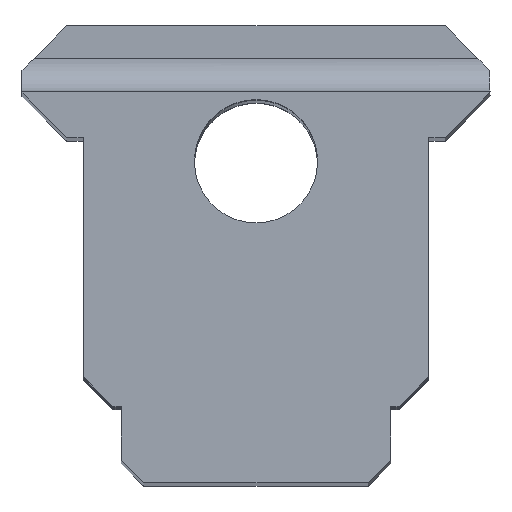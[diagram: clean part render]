
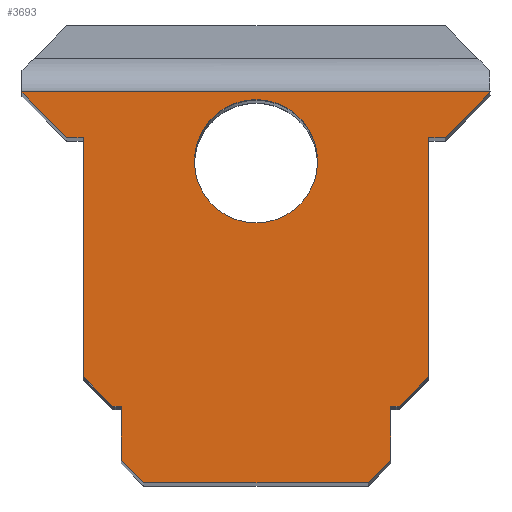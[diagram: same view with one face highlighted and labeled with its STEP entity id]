
A CAD part, top view. The second image highlights one B-rep face of the part: STEP entity #3693.
In plain terms, the highlighted planar face has unit normal (0, 0, 1).
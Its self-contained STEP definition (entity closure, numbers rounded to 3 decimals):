
#94=CIRCLE('',#3919,2.794);
#164=VECTOR('',#4071,1.);
#167=VECTOR('',#4075,1.);
#169=VECTOR('',#4078,1.);
#192=VECTOR('',#4102,1.);
#207=VECTOR('',#4122,1.);
#354=VECTOR('',#4312,1.);
#355=VECTOR('',#4313,1.);
#387=VECTOR('',#4358,1.);
#391=VECTOR('',#4363,1.);
#454=VECTOR('',#4588,1.);
#460=VECTOR('',#4596,1.);
#470=VECTOR('',#4608,1.);
#501=VECTOR('',#4651,1.);
#502=VECTOR('',#4653,1.);
#504=VECTOR('',#4656,1.);
#505=VECTOR('',#4657,1.);
#506=VECTOR('',#4658,1.);
#507=VECTOR('',#4659,1.);
#579=LINE('',#4865,#164);
#582=LINE('',#4871,#167);
#584=LINE('',#4875,#169);
#607=LINE('',#4927,#192);
#622=LINE('',#4958,#207);
#769=LINE('',#5257,#354);
#770=LINE('',#5259,#355);
#802=LINE('',#5323,#387);
#806=LINE('',#5332,#391);
#869=LINE('',#5584,#454);
#875=LINE('',#5595,#460);
#885=LINE('',#5614,#470);
#916=LINE('',#5675,#501);
#917=LINE('',#5677,#502);
#919=LINE('',#5681,#504);
#920=LINE('',#5683,#505);
#921=LINE('',#5684,#506);
#922=LINE('',#5686,#507);
#1004=VERTEX_POINT('',#4864);
#1005=VERTEX_POINT('',#4866);
#1006=VERTEX_POINT('',#4870);
#1007=VERTEX_POINT('',#4874);
#1035=VERTEX_POINT('',#4926);
#1047=VERTEX_POINT('',#4959);
#1155=VERTEX_POINT('',#5256);
#1156=VERTEX_POINT('',#5258);
#1175=VERTEX_POINT('',#5322);
#1176=VERTEX_POINT('',#5324);
#1179=VERTEX_POINT('',#5331);
#1280=VERTEX_POINT('',#5583);
#1281=VERTEX_POINT('',#5585);
#1284=VERTEX_POINT('',#5596);
#1290=VERTEX_POINT('',#5613);
#1309=VERTEX_POINT('',#5678);
#1310=VERTEX_POINT('',#5682);
#1311=VERTEX_POINT('',#5685);
#1312=VERTEX_POINT('',#5688);
#1459=EDGE_CURVE('',#1004,#1005,#579,.T.);
#1462=EDGE_CURVE('',#1004,#1006,#582,.T.);
#1464=EDGE_CURVE('',#1007,#1006,#584,.T.);
#1493=EDGE_CURVE('',#1007,#1035,#607,.T.);
#1508=EDGE_CURVE('',#1047,#1005,#622,.T.);
#1673=EDGE_CURVE('',#1155,#1156,#769,.T.);
#1675=EDGE_CURVE('',#1155,#1047,#770,.T.);
#1716=EDGE_CURVE('',#1175,#1176,#802,.T.);
#1724=EDGE_CURVE('',#1035,#1179,#806,.T.);
#1847=EDGE_CURVE('',#1281,#1280,#869,.T.);
#1855=EDGE_CURVE('',#1281,#1284,#875,.T.);
#1878=EDGE_CURVE('',#1290,#1280,#885,.T.);
#1926=EDGE_CURVE('',#1176,#1179,#916,.T.);
#1927=EDGE_CURVE('',#1156,#1309,#917,.T.);
#1929=EDGE_CURVE('',#1310,#1175,#919,.T.);
#1930=EDGE_CURVE('',#1284,#1310,#920,.T.);
#1931=EDGE_CURVE('',#1311,#1290,#921,.T.);
#1932=EDGE_CURVE('',#1309,#1311,#922,.T.);
#1933=EDGE_CURVE('',#1312,#1312,#94,.T.);
#3053=ORIENTED_EDGE('',*,*,#1464,.F.);
#3054=ORIENTED_EDGE('',*,*,#1493,.T.);
#3055=ORIENTED_EDGE('',*,*,#1724,.T.);
#3056=ORIENTED_EDGE('',*,*,#1926,.F.);
#3057=ORIENTED_EDGE('',*,*,#1716,.F.);
#3058=ORIENTED_EDGE('',*,*,#1929,.F.);
#3059=ORIENTED_EDGE('',*,*,#1930,.F.);
#3060=ORIENTED_EDGE('',*,*,#1855,.F.);
#3061=ORIENTED_EDGE('',*,*,#1847,.T.);
#3062=ORIENTED_EDGE('',*,*,#1878,.F.);
#3063=ORIENTED_EDGE('',*,*,#1931,.F.);
#3064=ORIENTED_EDGE('',*,*,#1932,.F.);
#3065=ORIENTED_EDGE('',*,*,#1927,.F.);
#3066=ORIENTED_EDGE('',*,*,#1673,.F.);
#3067=ORIENTED_EDGE('',*,*,#1675,.T.);
#3068=ORIENTED_EDGE('',*,*,#1508,.T.);
#3069=ORIENTED_EDGE('',*,*,#1459,.F.);
#3070=ORIENTED_EDGE('',*,*,#1462,.T.);
#3071=ORIENTED_EDGE('',*,*,#1933,.T.);
#3290=EDGE_LOOP('',(#3053,#3054,#3055,#3056,#3057,#3058,#3059,#3060,#3061,
#3062,#3063,#3064,#3065,#3066,#3067,#3068,#3069,#3070));
#3291=EDGE_LOOP('',(#3071));
#3495=FACE_BOUND('',#3290,.T.);
#3496=FACE_BOUND('',#3291,.T.);
#3693=ADVANCED_FACE('',(#3495,#3496),#5809,.T.);
#3918=AXIS2_PLACEMENT_3D('',#5680,#4655,$);
#3919=AXIS2_PLACEMENT_3D('',#5687,#4660,#4661);
#4071=DIRECTION('',(-0.707,0.707,0.));
#4075=DIRECTION('',(1.,0.,0.));
#4078=DIRECTION('',(-0.707,-0.707,0.));
#4102=DIRECTION('',(0.,1.,0.));
#4122=DIRECTION('',(0.,-1.,0.));
#4312=DIRECTION('',(-0.707,0.707,0.));
#4313=DIRECTION('',(1.,0.,0.));
#4358=DIRECTION('',(0.,-1.,0.));
#4363=DIRECTION('',(1.,0.,0.));
#4588=DIRECTION('',(-1.,0.,0.));
#4596=DIRECTION('',(0.,-1.,0.));
#4608=DIRECTION('',(0.,1.,0.));
#4651=DIRECTION('',(-0.707,-0.707,0.));
#4653=DIRECTION('',(0.,1.,0.));
#4655=DIRECTION('',(0.,0.,1.));
#4656=DIRECTION('',(-1.,0.,0.));
#4657=DIRECTION('',(-0.707,-0.707,0.));
#4658=DIRECTION('',(-0.707,0.707,0.));
#4659=DIRECTION('',(-1.,0.,0.));
#4660=DIRECTION('',(0.,0.,-1.));
#4661=DIRECTION('',(2.794,0.,0.));
#4864=CARTESIAN_POINT('',(-5.08,10.033,100.457));
#4865=CARTESIAN_POINT('',(-5.742,10.695,100.457));
#4866=CARTESIAN_POINT('',(-6.096,11.049,100.457));
#4870=CARTESIAN_POINT('',(5.08,10.033,100.457));
#4871=CARTESIAN_POINT('',(0.,10.033,100.457));
#4874=CARTESIAN_POINT('',(6.096,11.049,100.457));
#4875=CARTESIAN_POINT('',(5.742,10.695,100.457));
#4926=CARTESIAN_POINT('',(6.096,13.494,100.457));
#4927=CARTESIAN_POINT('',(6.096,12.42,100.457));
#4958=CARTESIAN_POINT('',(-6.096,12.42,100.457));
#4959=CARTESIAN_POINT('',(-6.096,13.494,100.457));
#5256=CARTESIAN_POINT('',(-6.49,13.494,100.457));
#5257=CARTESIAN_POINT('',(-6.016,13.021,100.457));
#5258=CARTESIAN_POINT('',(-7.836,14.84,100.457));
#5259=CARTESIAN_POINT('',(-3.048,13.494,100.457));
#5322=CARTESIAN_POINT('',(7.836,25.673,100.457));
#5323=CARTESIAN_POINT('',(7.836,25.673,100.457));
#5324=CARTESIAN_POINT('',(7.836,14.84,100.457));
#5331=CARTESIAN_POINT('',(6.49,13.494,100.457));
#5332=CARTESIAN_POINT('',(3.048,13.494,100.457));
#5583=CARTESIAN_POINT('',(-10.604,27.756,100.457));
#5584=CARTESIAN_POINT('',(0.,27.756,100.457));
#5585=CARTESIAN_POINT('',(10.605,27.756,100.457));
#5595=CARTESIAN_POINT('',(10.605,30.753,100.457));
#5596=CARTESIAN_POINT('',(10.605,27.705,100.457));
#5613=CARTESIAN_POINT('',(-10.605,27.705,100.457));
#5614=CARTESIAN_POINT('',(-10.605,25.673,100.457));
#5675=CARTESIAN_POINT('',(6.016,13.021,100.457));
#5677=CARTESIAN_POINT('',(-7.836,0.,100.457));
#5678=CARTESIAN_POINT('',(-7.836,25.673,100.457));
#5680=CARTESIAN_POINT('',(0.,16.744,100.457));
#5681=CARTESIAN_POINT('',(10.605,25.673,100.457));
#5682=CARTESIAN_POINT('',(8.573,25.673,100.457));
#5683=CARTESIAN_POINT('',(4.705,21.806,100.457));
#5684=CARTESIAN_POINT('',(-4.705,21.806,100.457));
#5685=CARTESIAN_POINT('',(-8.573,25.673,100.457));
#5686=CARTESIAN_POINT('',(-7.836,25.673,100.457));
#5687=CARTESIAN_POINT('',(0.,24.606,100.457));
#5688=CARTESIAN_POINT('',(-2.794,24.606,100.457));
#5809=PLANE('',#3918);
